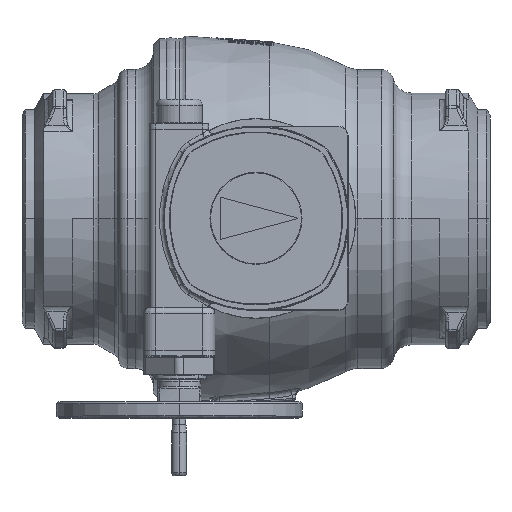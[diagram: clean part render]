
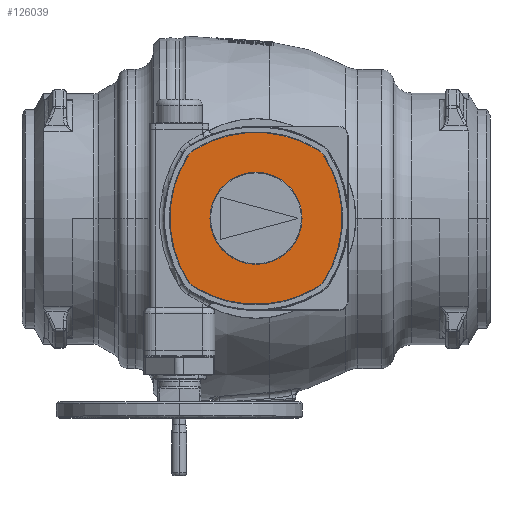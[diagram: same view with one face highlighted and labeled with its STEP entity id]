
A CAD part, top view. The second image highlights one B-rep face of the part: STEP entity #126039.
In plain terms, the highlighted planar face has unit normal (0, 0, 1).
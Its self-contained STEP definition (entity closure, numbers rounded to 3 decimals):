
#115412=CARTESIAN_POINT('',(85.34,-85.34,142.));
#115413=DIRECTION('',(0.,0.,-1.));
#115414=DIRECTION('',(0.846,-0.533,0.));
#115415=AXIS2_PLACEMENT_3D('',#115412,#115413,#115414);
#115417=CARTESIAN_POINT('',(0.,50.,142.));
#115418=DIRECTION('',(0.,0.,-1.));
#115419=DIRECTION('',(0.533,-0.846,0.));
#115420=AXIS2_PLACEMENT_3D('',#115417,#115418,#115419);
#115422=CARTESIAN_POINT('',(-85.34,-85.34,142.));
#115423=DIRECTION('',(0.,0.,-1.));
#115424=DIRECTION('',(-0.533,-0.846,0.));
#115425=AXIS2_PLACEMENT_3D('',#115422,#115423,#115424);
#115427=CARTESIAN_POINT('',(50.,0.,142.));
#115428=DIRECTION('',(0.,0.,-1.));
#115429=DIRECTION('',(-0.846,-0.533,0.));
#115430=AXIS2_PLACEMENT_3D('',#115427,#115428,#115429);
#115432=CARTESIAN_POINT('',(50.,0.,142.));
#115433=DIRECTION('',(0.,0.,-1.));
#115434=DIRECTION('',(-1.,0.,0.));
#115435=AXIS2_PLACEMENT_3D('',#115432,#115433,#115434);
#115437=CARTESIAN_POINT('',(-85.34,85.34,142.));
#115438=DIRECTION('',(0.,0.,-1.));
#115439=DIRECTION('',(-0.846,0.533,0.));
#115440=AXIS2_PLACEMENT_3D('',#115437,#115438,#115439);
#115442=CARTESIAN_POINT('',(0.,-50.,142.));
#115443=DIRECTION('',(0.,0.,-1.));
#115444=DIRECTION('',(-0.533,0.846,0.));
#115445=AXIS2_PLACEMENT_3D('',#115442,#115443,#115444);
#115447=CARTESIAN_POINT('',(85.34,85.34,142.));
#115448=DIRECTION('',(0.,0.,-1.));
#115449=DIRECTION('',(0.533,0.846,0.));
#115450=AXIS2_PLACEMENT_3D('',#115447,#115448,#115449);
#115452=CARTESIAN_POINT('',(-50.,0.,142.));
#115453=DIRECTION('',(0.,0.,-1.));
#115454=DIRECTION('',(0.846,0.533,0.));
#115455=AXIS2_PLACEMENT_3D('',#115452,#115453,#115454);
#115457=CARTESIAN_POINT('',(-50.,0.,142.));
#115458=DIRECTION('',(0.,0.,-1.));
#115459=DIRECTION('',(1.,0.,0.));
#115460=AXIS2_PLACEMENT_3D('',#115457,#115458,#115459);
#115462=CARTESIAN_POINT('',(0.,0.,142.));
#115463=DIRECTION('',(0.,0.,1.));
#115464=DIRECTION('',(-1.,0.,0.));
#115465=AXIS2_PLACEMENT_3D('',#115462,#115463,#115464);
#115467=CARTESIAN_POINT('',(0.,0.,142.));
#115468=DIRECTION('',(0.,0.,1.));
#115469=DIRECTION('',(1.,0.,0.));
#115470=AXIS2_PLACEMENT_3D('',#115467,#115468,#115469);
#115650=CARTESIAN_POINT('',(101.342,110.717,142.));
#115651=VERTEX_POINT('',#115650);
#115652=CARTESIAN_POINT('',(-101.342,110.717,142.));
#115653=VERTEX_POINT('',#115652);
#115654=CARTESIAN_POINT('',(110.717,101.342,142.));
#115655=VERTEX_POINT('',#115654);
#115656=CARTESIAN_POINT('',(110.717,-101.342,142.));
#115657=VERTEX_POINT('',#115656);
#115658=CARTESIAN_POINT('',(140.,0.,142.));
#115659=VERTEX_POINT('',#115658);
#115660=CARTESIAN_POINT('',(101.342,-110.717,142.));
#115661=VERTEX_POINT('',#115660);
#115662=CARTESIAN_POINT('',(-101.342,-110.717,142.));
#115663=VERTEX_POINT('',#115662);
#115664=CARTESIAN_POINT('',(-110.717,-101.342,142.));
#115665=VERTEX_POINT('',#115664);
#115666=CARTESIAN_POINT('',(-110.717,101.342,142.));
#115667=VERTEX_POINT('',#115666);
#115668=CARTESIAN_POINT('',(-140.,0.,142.));
#115669=VERTEX_POINT('',#115668);
#115670=CARTESIAN_POINT('',(-75.,0.,142.));
#115671=CARTESIAN_POINT('',(75.,0.,142.));
#115672=VERTEX_POINT('',#115670);
#115673=VERTEX_POINT('',#115671);
#126016=CARTESIAN_POINT('',(0.,0.,142.));
#126017=DIRECTION('',(0.,0.,1.));
#126018=DIRECTION('',(1.,0.,0.));
#126019=AXIS2_PLACEMENT_3D('',#126016,#126017,#126018);
#126020=PLANE('',#126019);
#126021=ORIENTED_EDGE('',*,*,#125952,.T.);
#126022=ORIENTED_EDGE('',*,*,#125966,.T.);
#126023=ORIENTED_EDGE('',*,*,#125980,.T.);
#126024=ORIENTED_EDGE('',*,*,#125997,.T.);
#126025=ORIENTED_EDGE('',*,*,#125995,.T.);
#126026=ORIENTED_EDGE('',*,*,#126010,.T.);
#126027=ORIENTED_EDGE('',*,*,#125906,.T.);
#126028=ORIENTED_EDGE('',*,*,#125921,.T.);
#126029=ORIENTED_EDGE('',*,*,#125938,.T.);
#126030=ORIENTED_EDGE('',*,*,#125936,.T.);
#126031=EDGE_LOOP('',(#126021,#126022,#126023,#126024,#126025,#126026,#126027,
#126028,#126029,#126030));
#126032=FACE_OUTER_BOUND('',#126031,.F.);
#126034=ORIENTED_EDGE('',*,*,#126033,.T.);
#126036=ORIENTED_EDGE('',*,*,#126035,.T.);
#126037=EDGE_LOOP('',(#126034,#126036));
#126038=FACE_BOUND('',#126037,.F.);
#126039=ADVANCED_FACE('',(#126032,#126038),#126020,.T.);
#115416=CIRCLE('',#115415,30.);
#115421=CIRCLE('',#115420,190.);
#115426=CIRCLE('',#115425,30.);
#115431=CIRCLE('',#115430,190.);
#115436=CIRCLE('',#115435,190.);
#115441=CIRCLE('',#115440,30.);
#115446=CIRCLE('',#115445,190.);
#115451=CIRCLE('',#115450,30.);
#115456=CIRCLE('',#115455,190.);
#115461=CIRCLE('',#115460,190.);
#115466=CIRCLE('',#115465,75.);
#115471=CIRCLE('',#115470,75.);
#125906=EDGE_CURVE('',#115653,#115651,#115446,.T.);
#125921=EDGE_CURVE('',#115651,#115655,#115451,.T.);
#125936=EDGE_CURVE('',#115659,#115657,#115461,.T.);
#125938=EDGE_CURVE('',#115655,#115659,#115456,.T.);
#125952=EDGE_CURVE('',#115657,#115661,#115416,.T.);
#125966=EDGE_CURVE('',#115661,#115663,#115421,.T.);
#125980=EDGE_CURVE('',#115663,#115665,#115426,.T.);
#125995=EDGE_CURVE('',#115669,#115667,#115436,.T.);
#125997=EDGE_CURVE('',#115665,#115669,#115431,.T.);
#126010=EDGE_CURVE('',#115667,#115653,#115441,.T.);
#126033=EDGE_CURVE('',#115672,#115673,#115466,.T.);
#126035=EDGE_CURVE('',#115673,#115672,#115471,.T.);
